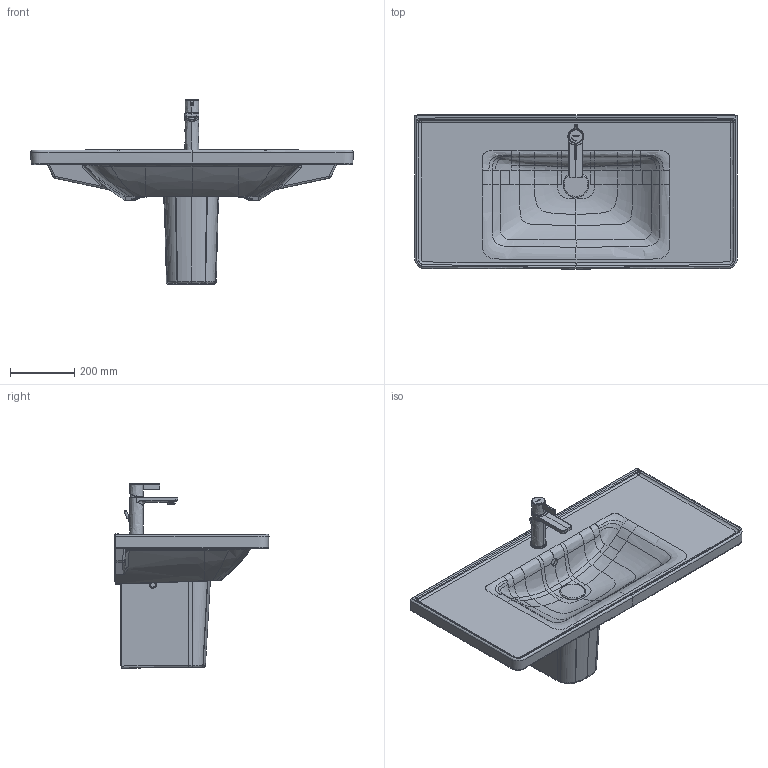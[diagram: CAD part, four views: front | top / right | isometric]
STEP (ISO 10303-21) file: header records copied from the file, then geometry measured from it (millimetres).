
FILE_DESCRIPTION(/* description */ (''),/* implementation_level */ '2;1');
FILE_NAME(/* name */ '236710_085843',/* time_stamp */ '2021-06-21T10:18:11+02:00',/* author */ (''),/* organization */ (''),/* preprocessor_version */ 'ST-DEVELOPER v15',/* originating_system */ '',/* authorisation */ '');
FILE_SCHEMA (('AUTOMOTIVE_DESIGN'));
Length unit declared in the file: millimetre
Products named in the file (1): Document
Bounding box: 1005.17 x 480.08 x 574.79 mm (x, y, z)
Volume: 24641404.6 mm3; surface area: 1931704 mm2
Topology: 7 solids, 12 shells, 748 faces, 1787 edges, 1080 vertices
Faces by surface type: bspline 581, plane 167
Entity records: 93619 total; most frequent: CARTESIAN_POINT 82525, ORIENTED_EDGE 3532, EDGE_CURVE 1773, B_SPLINE_CURVE_WITH_KNOTS 1445, VERTEX_POINT 1076, EDGE_LOOP 785, ADVANCED_FACE 744, FACE_OUTER_BOUND 744
